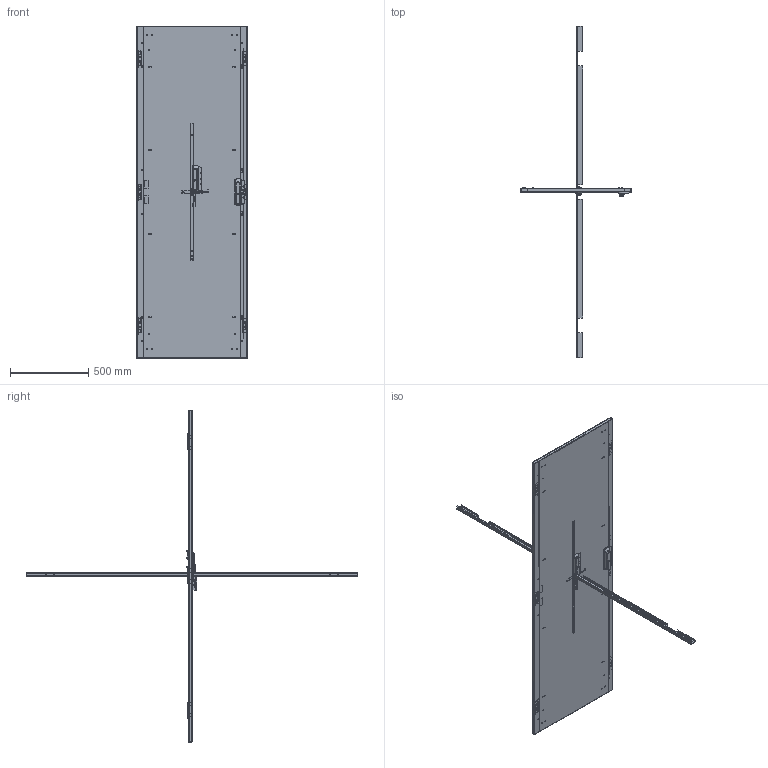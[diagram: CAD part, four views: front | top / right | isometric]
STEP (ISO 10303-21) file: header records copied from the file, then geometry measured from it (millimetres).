
FILE_DESCRIPTION( ( 'Unknown' ), '1' );
FILE_NAME( 'Q:/IME/WEB DRAWINGS/STEP/IMESD207.stp', 'Unknown', ( 'Unknown' ), ( 'Unknown' ), 'XStep 1.0', 'Unknown', ' ' );
FILE_SCHEMA( ( 'CONFIG_CONTROL_DESIGN' ) );
Length unit declared in the file: millimetre
Products named in the file (47): Assem1; Assem2; Assem3; Assem4; Assem5; 1; 2; 3; 4; 5; 6; 7; 8; 9; 10; 11; 12; 13; 14; 15; 16; 17; 18; 19; 20; 21; 22; 23; 24; 25; 26; 27; 28; 29; 30; 31; 32; 33; 34; 35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
Bounding box: 706.5 x 2114.75 x 2119.31 mm (x, y, z)
Volume: 10694148.5 mm3; surface area: 11249524.6 mm2
Topology: 127 solids, 131 shells, 2343 faces, 5626 edges, 3680 vertices
Faces by surface type: plane 1461, cylinder 680, cone 93, torus 75, bspline 34
Full cylindrical faces by diameter (mm): 2.464 x9, 3.175 x2, 3.607 x8, 4.166 x24, 4.216 x9, 4.318 x9, 4.851 x6, 4.928 x9, 5.08 x6, 5.156 x9, 5.537 x22, 5.893 x6, 5.994 x8, 6 x30, 6.35 x32, 7.137 x12, 7.366 x8, 7.62 x12, 7.938 x30, 8.001 x18, 8.026 x6, 9.804 x5
Entity records: 28245 total; most frequent: CARTESIAN_POINT 6010, DIRECTION 4230, ORIENTED_EDGE 3890, EDGE_CURVE 1945, AXIS2_PLACEMENT_3D 1462, VERTEX_POINT 1347, LINE 1306, VECTOR 1306
